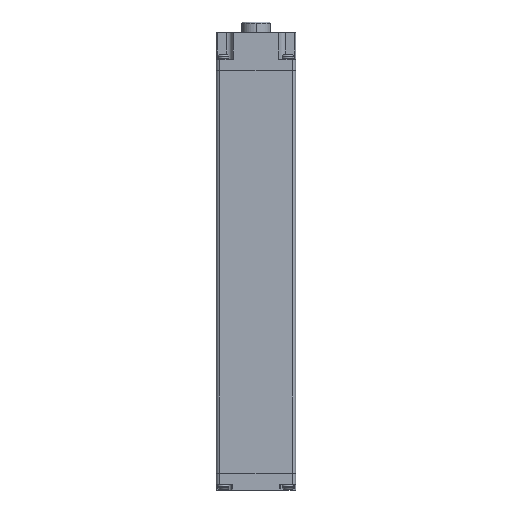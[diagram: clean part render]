
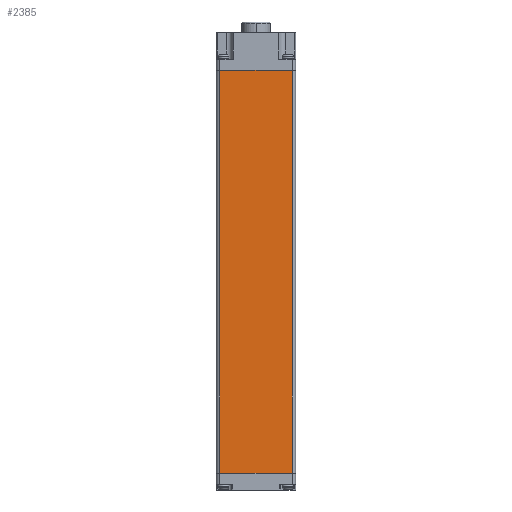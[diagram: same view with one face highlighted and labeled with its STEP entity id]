
A CAD part, front view. The second image highlights one B-rep face of the part: STEP entity #2385.
In plain terms, the highlighted planar face has unit normal (0, -1, 0).
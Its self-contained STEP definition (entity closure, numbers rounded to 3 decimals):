
#75=DIRECTION('',(1.,0.,0.));
#76=VECTOR('',#75,32.8);
#77=CARTESIAN_POINT('',(-16.4,-18.,-91.));
#78=LINE('',#77,#76);
#565=DIRECTION('',(0.,0.,1.));
#566=VECTOR('',#565,182.);
#567=CARTESIAN_POINT('',(16.4,-18.,-91.));
#568=LINE('',#567,#566);
#569=DIRECTION('',(0.,0.,1.));
#570=VECTOR('',#569,182.);
#571=CARTESIAN_POINT('',(-16.4,-18.,-91.));
#572=LINE('',#571,#570);
#880=DIRECTION('',(1.,0.,0.));
#881=VECTOR('',#880,32.8);
#882=CARTESIAN_POINT('',(-16.4,-18.,91.));
#883=LINE('',#882,#881);
#969=CARTESIAN_POINT('',(-16.4,-18.,-91.));
#970=CARTESIAN_POINT('',(16.4,-18.,-91.));
#971=VERTEX_POINT('',#969);
#972=VERTEX_POINT('',#970);
#1121=CARTESIAN_POINT('',(-16.4,-18.,91.));
#1122=CARTESIAN_POINT('',(16.4,-18.,91.));
#1123=VERTEX_POINT('',#1121);
#1124=VERTEX_POINT('',#1122);
#2372=CARTESIAN_POINT('',(-16.4,-18.,-91.));
#2373=DIRECTION('',(0.,-1.,0.));
#2374=DIRECTION('',(1.,0.,0.));
#2375=AXIS2_PLACEMENT_3D('',#2372,#2373,#2374);
#2376=PLANE('',#2375);
#2377=ORIENTED_EDGE('',*,*,#1280,.F.);
#2379=ORIENTED_EDGE('',*,*,#2378,.T.);
#2381=ORIENTED_EDGE('',*,*,#2380,.T.);
#2382=ORIENTED_EDGE('',*,*,#2357,.F.);
#2383=EDGE_LOOP('',(#2377,#2379,#2381,#2382));
#2384=FACE_OUTER_BOUND('',#2383,.F.);
#1280=EDGE_CURVE('',#971,#972,#78,.T.);
#2357=EDGE_CURVE('',#972,#1124,#568,.T.);
#2378=EDGE_CURVE('',#971,#1123,#572,.T.);
#2380=EDGE_CURVE('',#1123,#1124,#883,.T.);
#2385=ADVANCED_FACE('',(#2384),#2376,.T.);
